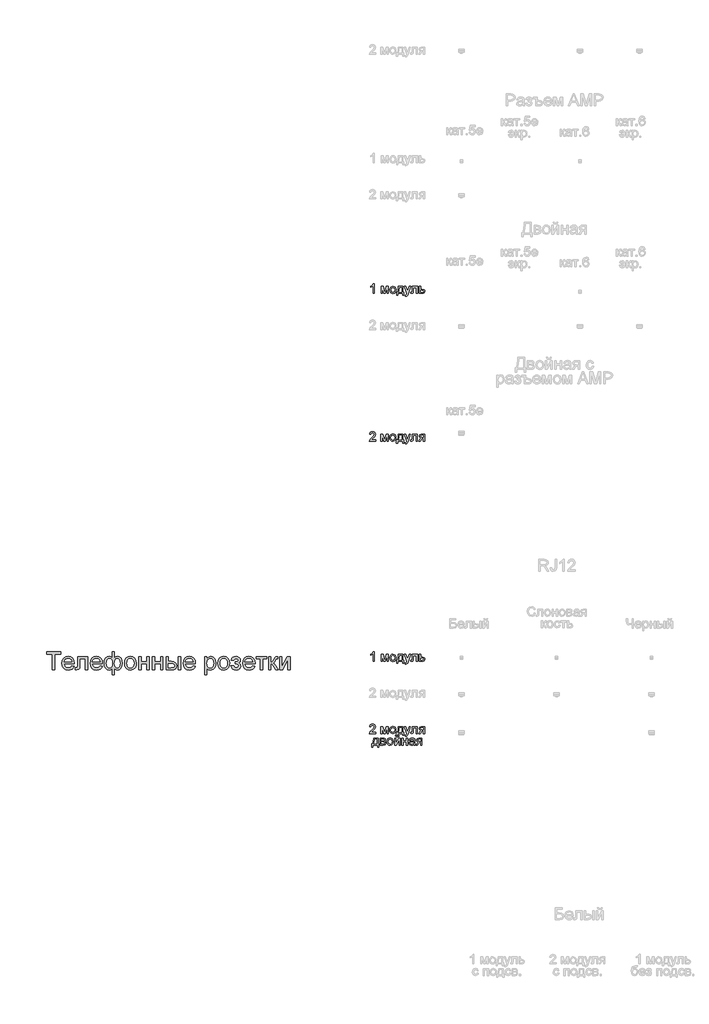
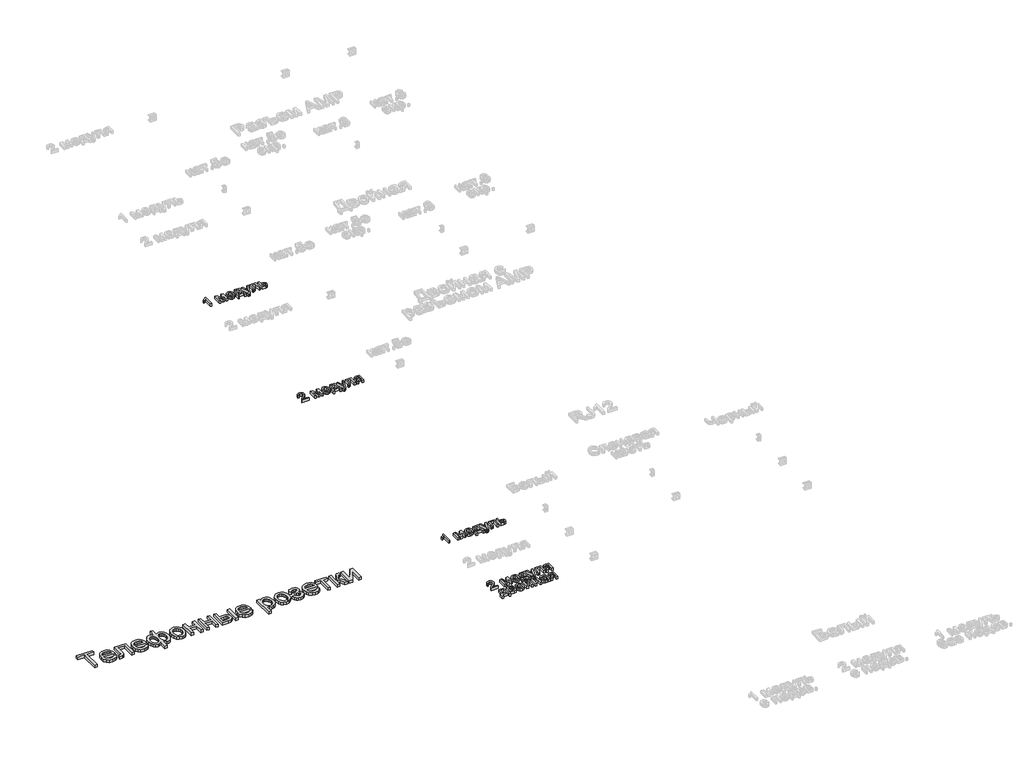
# One storey, part 6 of 47: 5 proxies.
"""IFC4 building model written with IfcOpenShell, lengths in millimetres."""

from ifc_helpers import new_model, si_unit, origin, origin_with_axes, place, context, project, spatial, polyline, outline, extrude, element, save

model = new_model("IFC4")

# Units and contexts
model_context = context("Model", 3, world=origin())
ifc_project = project(units=[si_unit("LENGTHUNIT", "METRE", prefix="MILLI")], contexts=[model_context])

# Site, building, storey
site = spatial("IfcSite", under=ifc_project)
building = spatial("IfcBuilding", under=site)
storey = spatial("IfcBuildingStorey", under=building, Name="Этаж 01", Elevation=0.0)

# Proxies
placement = place(None, origin())
element("IfcBuildingElementProxy", 1, Name="150 мм Arial", ObjectType="150 мм Arial", at=placement, inside=storey, context=model_context, shape_type="SweptSolid", body=[
    extrude(outline(polyline([(-3439.9925635, -25822.2592869), (-3439.9925635, -25690.4103799), (-3489.4359036, -25690.4103799), (-3489.4359036, -25671.5748217), (-3371.7136652, -25671.5748217), (-3371.7136652, -25690.4103799), (-3421.1570053, -25690.4103799), (-3421.1570053, -25822.2592869), (-3439.9925635, -25822.2592869)])), origin_with_axes(), (0.0, 0.0, 1.0), 20.0),
    extrude(outline(polyline([(-3275.4021588, -25789.2970602), (-3256.9344827, -25791.6515049), (-3263.5885483, -25805.5666414), (-3274.2065423, -25815.9685048), (-3288.5493416, -25822.452425), (-3306.3778228, -25824.6137317), (-3328.4783337, -25820.884328), (-3345.4836789, -25809.6961168), (-3356.3270007, -25791.7756651), (-3359.9414413, -25767.8495398), (-3356.2902125, -25743.1186727), (-3345.3365261, -25724.6234054), (-3328.5611071, -25713.0903049), (-3307.4446806, -25709.245938), (-3286.9858431, -25713.0811078), (-3270.638087, -25724.5866172), (-3259.9189253, -25743.0450963), (-3256.3458715, -25767.7391752), (-3256.4562361, -25772.8159468), (-3341.1058832, -25772.8159468), (-3337.845529, -25786.9150242), (-3330.2717584, -25797.2800994), (-3319.3410646, -25803.653655), (-3306.0099408, -25805.7781735), (-3287.5422647, -25801.8418362), (-3275.4021588, -25789.2970602)]), holes=[polyline([(-3341.1058832, -25753.9803886), (-3275.1814296, -25753.9803886), (-3277.7290124, -25744.0291806), (-3282.7230105, -25736.910664), (-3293.7042881, -25730.2887881), (-3307.518257, -25728.0814962), (-3320.2147844, -25729.8427312), (-3330.7132168, -25735.1264364), (-3338.0110759, -25743.3623945), (-3341.1058832, -25753.9803886)])]), origin_with_axes(), (0.0, 0.0, 1.0), 20.0),
    extrude(outline(polyline([(-3228.0925342, -25711.6003828), (-3143.3325226, -25711.6003828), (-3143.3325226, -25822.1489223), (-3162.1680807, -25822.1489223), (-3162.1680807, -25730.4359409), (-3209.2569761, -25730.4359409), (-3209.2569761, -25783.2270072), (-3210.526169, -25807.5807953), (-3217.4975328, -25817.8630971), (-3233.9786462, -25822.2592869), (-3249.2825372, -25821.3027937), (-3249.2825372, -25803.4237288), (-3240.8580395, -25803.4237288), (-3232.3415713, -25802.2649005), (-3228.9386628, -25798.5860805), (-3228.0925342, -25782.1601494), (-3228.0925342, -25711.6003828)])), origin_with_axes(), (0.0, 0.0, 1.0), 20.0),
    extrude(outline(polyline([(-3037.6032371, -25789.2970602), (-3019.135561, -25791.6515049), (-3025.7896266, -25805.5666414), (-3036.4076207, -25815.9685048), (-3050.7504199, -25822.452425), (-3068.5789011, -25824.6137317), (-3090.679412, -25820.884328), (-3107.6847572, -25809.6961168), (-3118.528079, -25791.7756651), (-3122.1425196, -25767.8495398), (-3118.4912908, -25743.1186727), (-3107.5376044, -25724.6234054), (-3090.7621854, -25713.0903049), (-3069.6457589, -25709.245938), (-3049.1869215, -25713.0811078), (-3032.8391653, -25724.5866172), (-3022.1200037, -25743.0450963), (-3018.5469498, -25767.7391752), (-3018.6573144, -25772.8159468), (-3103.3069615, -25772.8159468), (-3100.0466073, -25786.9150242), (-3092.4728367, -25797.2800994), (-3081.5421429, -25803.653655), (-3068.2110191, -25805.7781735), (-3049.743343, -25801.8418362), (-3037.6032371, -25789.2970602)]), holes=[polyline([(-3103.3069615, -25753.9803886), (-3037.3825079, -25753.9803886), (-3039.9300908, -25744.0291806), (-3044.9240888, -25736.910664), (-3055.9053664, -25730.2887881), (-3069.7193353, -25728.0814962), (-3082.4158627, -25729.8427312), (-3092.9142951, -25735.1264364), (-3100.2121542, -25743.3623945), (-3103.3069615, -25753.9803886)])]), origin_with_axes(), (0.0, 0.0, 1.0), 20.0),
    extrude(outline(polyline([(-2936.1413829, -25671.5748217), (-2917.3058247, -25671.5748217), (-2917.3058247, -25722.2321724), (-2905.3312658, -25712.4649055), (-2891.2965677, -25709.245938), (-2874.8108557, -25713.3386252), (-2862.1419195, -25725.6166868), (-2854.0715083, -25744.102757), (-2851.3813712, -25766.8194702), (-2854.2784419, -25790.2305607), (-2862.969654, -25808.6660472), (-2875.9650855, -25820.6268106), (-2891.7748143, -25824.6137317), (-2903.2895207, -25822.7743217), (-2917.3058247, -25812.7311432), (-2917.3058247, -25864.6392928), (-2936.1413829, -25864.6392928), (-2936.1413829, -25812.7311432), (-2948.1711241, -25821.6338875), (-2962.4081573, -25824.6137317), (-2978.1902949, -25820.806153), (-2991.8387169, -25809.3834171), (-3001.2748901, -25790.8697557), (-3004.4202812, -25765.7894007), (-3001.5737942, -25743.7072839), (-2993.0343334, -25725.5063222), (-2979.6848155, -25713.3110341), (-2962.4081573, -25709.245938), (-2947.8216362, -25712.4649055), (-2936.1413829, -25722.2321724), (-2936.1413829, -25671.5748217)]), holes=[polyline([(-2985.584723, -25765.3847305), (-2983.6993278, -25783.8616037), (-2978.0431421, -25796.3236063), (-2969.5910533, -25803.4145317), (-2959.3179486, -25805.7781735), (-2949.0954276, -25803.4283273), (-2941.8251597, -25796.3787886), (-2937.4795536, -25784.6295573), (-2936.0310183, -25768.1806336), (-2937.55313, -25750.637261), (-2942.1194653, -25738.1062805), (-2949.7576152, -25730.5876922), (-2960.4951709, -25728.0814962), (-2970.5751376, -25730.5279114), (-2978.5949651, -25737.8671572), (-2983.8372835, -25749.6393811), (-2985.584723, -25765.3847305)]), polyline([(-2917.4161893, -25767.2609286), (-2915.8480923, -25786.3310116), (-2911.1438013, -25797.9238929), (-2904.0758685, -25803.8146034), (-2895.416846, -25805.7781735), (-2885.736951, -25803.3639479), (-2877.5929633, -25796.1212712), (-2872.0609378, -25783.7926258), (-2870.2169293, -25766.1204945), (-2871.9183836, -25749.3634696), (-2877.0227462, -25737.4992752), (-2884.7942534, -25730.4359409), (-2894.497141, -25728.0814962), (-2904.4897357, -25730.5325099), (-2911.6588361, -25737.8855513), (-2915.976851, -25750.1314232), (-2917.4161893, -25767.2609286)])]), origin_with_axes(), (0.0, 0.0, 1.0), 20.0),
    extrude(outline(polyline([(-2832.545813, -25766.9298348), (-2828.4715199, -25740.2491931), (-2816.2486406, -25721.4964084), (-2801.1470847, -25712.3085556), (-2783.0656847, -25709.245938), (-2763.2782319, -25712.9753417), (-2747.4731016, -25724.1635529), (-2737.112625, -25741.9276548), (-2733.6591327, -25765.3847305), (-2735.185843, -25784.4134267), (-2739.7659738, -25798.8987802), (-2747.266168, -25809.7467006), (-2757.5530683, -25817.8630971), (-2769.7713491, -25822.926073), (-2783.0656847, -25824.6137317), (-2803.0922608, -25820.8981235), (-2818.8789969, -25809.7512991), (-2829.129109, -25791.6147167), (-2832.545813, -25766.9298348)]), holes=[polyline([(-2813.7102549, -25766.8930466), (-2811.5305541, -25783.9397786), (-2804.9914516, -25796.084483), (-2795.1506082, -25803.3547509), (-2783.0656847, -25805.7781735), (-2771.0359434, -25803.3409553), (-2761.2134942, -25796.0293007), (-2754.6743917, -25783.7236479), (-2752.4946909, -25766.3044355), (-2754.6881873, -25749.7543442), (-2761.2686765, -25737.7751867), (-2771.1049213, -25730.5049188), (-2783.0656847, -25728.0814962), (-2795.1506082, -25730.4957218), (-2804.9914516, -25737.7383985), (-2811.5305541, -25749.8555117), (-2813.7102549, -25766.8930466)])]), origin_with_axes(), (0.0, 0.0, 1.0), 20.0),
    extrude(outline(polyline([(-2712.4691298, -25711.6003828), (-2693.6335716, -25711.6003828), (-2693.6335716, -25753.9803886), (-2644.1902315, -25753.9803886), (-2644.1902315, -25711.6003828), (-2625.3546733, -25711.6003828), (-2625.3546733, -25822.2592869), (-2644.1902315, -25822.2592869), (-2644.1902315, -25772.8159468), (-2693.6335716, -25772.8159468), (-2693.6335716, -25822.2592869), (-2712.4691298, -25822.2592869), (-2712.4691298, -25711.6003828)])), origin_with_axes(), (0.0, 0.0, 1.0), 20.0),
    extrude(outline(polyline([(-2597.1013361, -25711.6003828), (-2578.265778, -25711.6003828), (-2578.265778, -25753.9803886), (-2528.8224378, -25753.9803886), (-2528.8224378, -25711.6003828), (-2509.9868797, -25711.6003828), (-2509.9868797, -25822.2592869), (-2528.8224378, -25822.2592869), (-2528.8224378, -25772.8159468), (-2578.265778, -25772.8159468), (-2578.265778, -25822.2592869), (-2597.1013361, -25822.2592869), (-2597.1013361, -25711.6003828)])), origin_with_axes(), (0.0, 0.0, 1.0), 20.0),
    extrude(outline(polyline([(-2378.1379726, -25711.6003828), (-2359.3024144, -25711.6003828), (-2359.3024144, -25822.2592869), (-2378.1379726, -25822.2592869), (-2378.1379726, -25711.6003828)])), origin_with_axes(), (0.0, 0.0, 1.0), 20.0),
    extrude(outline(polyline([(-2481.7335424, -25711.6003828), (-2462.8979843, -25711.6003828), (-2462.8979843, -25751.6259438), (-2439.611054, -25751.6259438), (-2419.4833103, -25753.9849871), (-2404.5702939, -25761.062117), (-2395.3410544, -25772.2871164), (-2392.2646412, -25787.0897682), (-2394.8444137, -25800.5680448), (-2402.5837312, -25811.940197), (-2415.9884314, -25819.6795144), (-2435.564352, -25822.2592869), (-2481.7335424, -25822.2592869), (-2481.7335424, -25711.6003828)]), holes=[polyline([(-2462.8979843, -25803.4237288), (-2443.5473913, -25803.4237288), (-2418.5682039, -25799.4689973), (-2412.9672005, -25794.4060214), (-2411.1001994, -25787.1265564), (-2416.6368234, -25775.5382735), (-2425.516575, -25771.7306949), (-2441.082582, -25770.461502), (-2462.8979843, -25770.461502), (-2462.8979843, -25803.4237288)])]), origin_with_axes(), (0.0, 0.0, 1.0), 20.0),
    extrude(outline(polyline([(-2253.573129, -25789.2970602), (-2235.1054529, -25791.6515049), (-2241.7595184, -25805.5666414), (-2252.3775125, -25815.9685048), (-2266.7203118, -25822.452425), (-2284.548793, -25824.6137317), (-2306.6493039, -25820.884328), (-2323.6546491, -25809.6961168), (-2334.4979709, -25791.7756651), (-2338.1124115, -25767.8495398), (-2334.4611827, -25743.1186727), (-2323.5074963, -25724.6234054), (-2306.7320773, -25713.0903049), (-2285.6156508, -25709.245938), (-2265.1568133, -25713.0811078), (-2248.8090572, -25724.5866172), (-2238.0898955, -25743.0450963), (-2234.5168417, -25767.7391752), (-2234.6272063, -25772.8159468), (-2319.2768534, -25772.8159468), (-2316.0164992, -25786.9150242), (-2308.4427286, -25797.2800994), (-2297.5120348, -25803.653655), (-2284.180911, -25805.7781735), (-2265.7132349, -25801.8418362), (-2253.573129, -25789.2970602)]), holes=[polyline([(-2319.2768534, -25753.9803886), (-2253.3523998, -25753.9803886), (-2255.8999826, -25744.0291806), (-2260.8939807, -25736.910664), (-2271.8752583, -25730.2887881), (-2285.6892272, -25728.0814962), (-2298.3857546, -25729.8427312), (-2308.884187, -25735.1264364), (-2316.1820461, -25743.3623945), (-2319.2768534, -25753.9803886)])]), origin_with_axes(), (0.0, 0.0, 1.0), 20.0),
    extrude(outline(polyline([(-2156.8201643, -25864.6392928), (-2156.8201643, -25711.6003828), (-2137.9846061, -25711.6003828), (-2137.9846061, -25730.0680589), (-2124.9615835, -25714.4514682), (-2107.3768241, -25709.245938), (-2094.6389101, -25711.0669539), (-2083.5012826, -25716.5300015), (-2074.4329915, -25725.3039871), (-2067.9030861, -25737.0578168), (-2062.6423735, -25766.0837063), (-2064.1276971, -25782.1923391), (-2068.5836677, -25796.5995178), (-2075.8677312, -25808.5740767), (-2085.8373333, -25817.3848505), (-2097.4486088, -25822.8065114), (-2109.6576925, -25824.6137317), (-2126.0468354, -25819.7760835), (-2137.9846061, -25807.5440071), (-2137.9846061, -25864.6392928), (-2156.8201643, -25864.6392928)]), holes=[polyline([(-2137.9846061, -25767.8127516), (-2135.9474596, -25784.6985352), (-2129.8360199, -25796.5075473), (-2120.8183125, -25803.460517), (-2110.0623627, -25805.7781735), (-2099.1316689, -25803.3777435), (-2089.8840353, -25796.1764535), (-2083.5794576, -25783.9351801), (-2081.4779317, -25766.4148001), (-2083.5288738, -25749.620987), (-2089.6817002, -25737.646428), (-2098.685612, -25730.4727291), (-2109.2898105, -25728.0814962), (-2119.9353957, -25730.6244804), (-2129.2841969, -25738.2534333), (-2135.8095038, -25750.7292315), (-2137.9846061, -25767.8127516)])]), origin_with_axes(), (0.0, 0.0, 1.0), 20.0),
    extrude(outline(polyline([(-2046.1612601, -25766.9298348), (-2042.086967, -25740.2491931), (-2029.8640878, -25721.4964084), (-2014.7625318, -25712.3085556), (-1996.6811318, -25709.245938), (-1976.893679, -25712.9753417), (-1961.0885488, -25724.1635529), (-1950.7280721, -25741.9276548), (-1947.2745798, -25765.3847305), (-1948.8012901, -25784.4134267), (-1953.381421, -25798.8987802), (-1960.8816151, -25809.7467006), (-1971.1685154, -25817.8630971), (-1983.3867962, -25822.926073), (-1996.6811318, -25824.6137317), (-2016.7077079, -25820.8981235), (-2032.494444, -25809.7512991), (-2042.7445561, -25791.6147167), (-2046.1612601, -25766.9298348)]), holes=[polyline([(-2027.325702, -25766.8930466), (-2025.1460012, -25783.9397786), (-2018.6068987, -25796.084483), (-2008.7660553, -25803.3547509), (-1996.6811318, -25805.7781735), (-1984.6513905, -25803.3409553), (-1974.8289413, -25796.0293007), (-1968.2898388, -25783.7236479), (-1966.110138, -25766.3044355), (-1968.3036344, -25749.7543442), (-1974.8841236, -25737.7751867), (-1984.7203684, -25730.5049188), (-1996.6811318, -25728.0814962), (-2008.7660553, -25730.4957218), (-2018.6068987, -25737.7383985), (-2025.1460012, -25749.8555117), (-2027.325702, -25766.8930466)])]), origin_with_axes(), (0.0, 0.0, 1.0), 20.0),
    extrude(outline(polyline([(-1900.1856845, -25772.8159468), (-1900.1856845, -25753.9803886), (-1885.3232518, -25753.2446246), (-1877.8184591, -25749.3266814), (-1874.286792, -25741.141307), (-1879.0140756, -25731.6315574), (-1891.2093638, -25728.0814962), (-1903.8093221, -25731.6131633), (-1911.9579083, -25742.2081648), (-1933.1479112, -25739.85372), (-1927.5285137, -25726.4628154), (-1918.9844544, -25716.8978835), (-1907.5157332, -25711.1589244), (-1893.1223501, -25709.245938), (-1877.3770008, -25711.5773901), (-1865.4576241, -25718.5717466), (-1857.9528314, -25728.8034646), (-1855.4512338, -25740.8470014), (-1859.0104921, -25752.5456488), (-1869.6882671, -25761.5955459), (-1857.2354615, -25773.3309816), (-1853.0967891, -25790.2167651), (-1855.7225468, -25804.0813178), (-1863.59982, -25815.0671939), (-1876.1951798, -25822.2270972), (-1892.9751973, -25824.6137317), (-1909.3873329, -25822.4064397), (-1921.9459045, -25815.7845638), (-1930.6509122, -25804.748104), (-1935.502356, -25789.2970602), (-1914.3123531, -25786.9426154), (-1905.814279, -25800.8485548), (-1891.1725756, -25805.7781735), (-1877.4137889, -25801.0508899), (-1871.9323472, -25788.9659664), (-1875.3352557, -25779.0699407), (-1882.582531, -25773.77244), (-1896.5068645, -25772.7055822), (-1900.1856845, -25772.8159468)])), origin_with_axes(), (0.0, 0.0, 1.0), 20.0),
    extrude(outline(polyline([(-1752.0763932, -25789.2970602), (-1733.608717, -25791.6515049), (-1740.2627826, -25805.5666414), (-1750.8807767, -25815.9685048), (-1765.223576, -25822.452425), (-1783.0520572, -25824.6137317), (-1805.152568, -25820.884328), (-1822.1579133, -25809.6961168), (-1833.0012351, -25791.7756651), (-1836.6156757, -25767.8495398), (-1832.9644469, -25743.1186727), (-1822.0107605, -25724.6234054), (-1805.2353415, -25713.0903049), (-1784.118915, -25709.245938), (-1763.6600775, -25713.0811078), (-1747.3123214, -25724.5866172), (-1736.5931597, -25743.0450963), (-1733.0201058, -25767.7391752), (-1733.1304704, -25772.8159468), (-1817.7801175, -25772.8159468), (-1814.5197633, -25786.9150242), (-1806.9459928, -25797.2800994), (-1796.015299, -25803.653655), (-1782.6841752, -25805.7781735), (-1764.216499, -25801.8418362), (-1752.0763932, -25789.2970602)]), holes=[polyline([(-1817.7801175, -25753.9803886), (-1751.855664, -25753.9803886), (-1754.4032468, -25744.0291806), (-1759.3972449, -25736.910664), (-1770.3785225, -25730.2887881), (-1784.1924914, -25728.0814962), (-1796.8890187, -25729.8427312), (-1807.3874512, -25735.1264364), (-1814.6853102, -25743.3623945), (-1817.7801175, -25753.9803886)])]), origin_with_axes(), (0.0, 0.0, 1.0), 20.0),
    extrude(outline(polyline([(-1723.6023268, -25711.6003828), (-1634.1334255, -25711.6003828), (-1634.1334255, -25730.4359409), (-1669.4500971, -25730.4359409), (-1669.4500971, -25822.2592869), (-1688.2856552, -25822.2592869), (-1688.2856552, -25730.4359409), (-1723.6023268, -25730.4359409), (-1723.6023268, -25711.6003828)])), origin_with_axes(), (0.0, 0.0, 1.0), 20.0),
    extrude(outline(polyline([(-1617.6523122, -25711.6003828), (-1598.816754, -25711.6003828), (-1598.816754, -25758.6892782), (-1586.1984016, -25755.3047638), (-1575.8609175, -25735.5862889), (-1567.2708729, -25718.5717466), (-1559.6925038, -25713.0351226), (-1545.9153231, -25711.6003828), (-1542.3100795, -25711.6003828), (-1542.3100795, -25730.5463055), (-1547.3868511, -25730.4359409), (-1556.583901, -25732.4225037), (-1563.0586241, -25744.8201269), (-1570.6553873, -25758.2294257), (-1581.305571, -25764.7961193), (-1569.4229826, -25772.126168), (-1557.7611233, -25787.5680148), (-1537.60119, -25822.2592869), (-1559.0119221, -25822.2592869), (-1578.7671853, -25788.3037788), (-1588.6999991, -25773.9379869), (-1598.816754, -25770.461502), (-1598.816754, -25822.2592869), (-1617.6523122, -25822.2592869), (-1617.6523122, -25711.6003828)])), origin_with_axes(), (0.0, 0.0, 1.0), 20.0),
    extrude(outline(polyline([(-1525.8289662, -25711.6003828), (-1506.993408, -25711.6003828), (-1506.993408, -25795.9925125), (-1460.713853, -25711.6003828), (-1436.3600649, -25711.6003828), (-1436.3600649, -25822.2592869), (-1455.1956231, -25822.2592869), (-1455.1956231, -25738.382192), (-1501.1808725, -25822.2592869), (-1525.8289662, -25822.2592869), (-1525.8289662, -25711.6003828)])), origin_with_axes(), (0.0, 0.0, 1.0), 20.0),
])
element("IfcBuildingElementProxy", 2, Name="80 мм Arial", ObjectType="80 мм Arial", at=placement, inside=storey, context=model_context, shape_type="SweptSolid", body=[
    extrude(outline(polyline([(-728.9436865, -22651.4329989), (-738.9893175, -22651.4329989), (-738.9893175, -22588.804768), (-748.5051984, -22595.5836069), (-759.0805795, -22600.6554733), (-759.0805795, -22591.1592128), (-744.3554895, -22581.7610541), (-735.4184096, -22571.0679507), (-728.9436865, -22571.0679507), (-728.9436865, -22651.4329989)])), origin_with_axes(), (0.0, 0.0, 1.0), 20.0),
    extrude(outline(polyline([(-671.1813081, -22592.4149166), (-653.8957594, -22592.4149166), (-640.5735261, -22639.660775), (-626.211413, -22592.4149166), (-609.6518182, -22592.4149166), (-609.6518182, -22651.4329989), (-619.6974492, -22651.4329989), (-619.6974492, -22603.9124553), (-634.1380438, -22651.4329989), (-647.3229345, -22651.4329989), (-661.1356771, -22601.636492), (-661.1356771, -22651.4329989), (-671.1813081, -22651.4329989), (-671.1813081, -22592.4149166)])), origin_with_axes(), (0.0, 0.0, 1.0), 20.0),
    extrude(outline(polyline([(-597.0947794, -22621.9239578), (-594.9218231, -22607.6942822), (-588.4029541, -22597.692797), (-580.348791, -22592.7926088), (-570.7053776, -22591.1592128), (-560.1520694, -22593.1482281), (-551.7226667, -22599.1152741), (-546.1970791, -22608.5894617), (-544.3552166, -22621.0999021), (-547.6121985, -22638.974062), (-557.0986489, -22649.0883643), (-570.7053776, -22652.6887027), (-581.3862182, -22650.7070451), (-589.8058108, -22644.762072), (-595.2725372, -22635.0892281), (-597.0947794, -22621.9239578)]), holes=[polyline([(-587.0491484, -22621.9043374), (-582.39912, -22637.4731034), (-570.7053776, -22642.6430717), (-559.050876, -22637.4436729), (-554.4008476, -22621.5904114), (-559.0803066, -22606.3748121), (-570.7053776, -22601.2048438), (-582.39912, -22606.3551917), (-587.0491484, -22621.9043374)])]), origin_with_axes(), (0.0, 0.0, 1.0), 20.0),
    extrude(outline(polyline([(-524.2639545, -22592.4149166), (-486.5928382, -22592.4149166), (-486.5928382, -22641.3873678), (-479.058615, -22641.3873678), (-479.058615, -22667.7571493), (-489.104246, -22667.7571493), (-489.104246, -22651.4329989), (-530.5424739, -22651.4329989), (-530.5424739, -22667.7571493), (-540.5881049, -22667.7571493), (-540.5881049, -22641.3873678), (-534.3095855, -22641.3873678), (-526.549728, -22622.2280735), (-524.2639545, -22592.4149166)]), holes=[polyline([(-515.4740274, -22602.4605477), (-517.8284722, -22625.3477129), (-523.0082507, -22641.3873678), (-496.6384692, -22641.3873678), (-496.6384692, -22602.4605477), (-515.4740274, -22602.4605477)])]), origin_with_axes(), (0.0, 0.0, 1.0), 20.0),
    extrude(outline(polyline([(-467.7572801, -22674.0356686), (-469.012984, -22664.3628247), (-463.911687, -22665.2457415), (-459.1439363, -22664.1371904), (-456.2205007, -22661.0469817), (-453.4736485, -22653.650101), (-452.6888336, -22651.2171748), (-474.0357995, -22592.4149166), (-463.440798, -22592.4149166), (-452.1198427, -22625.1809397), (-448.1761477, -22638.2873489), (-444.2324528, -22626.7113288), (-432.5975715, -22592.4149166), (-422.0810516, -22592.4149166), (-442.6235822, -22652.8456657), (-447.9603236, -22665.9520749), (-453.7875744, -22673.0350296), (-461.6161033, -22675.2913725), (-467.7572801, -22674.0356686)])), origin_with_axes(), (0.0, 0.0, 1.0), 20.0),
    extrude(outline(polyline([(-408.7391979, -22592.4149166), (-363.5338583, -22592.4149166), (-363.5338583, -22651.3741377), (-373.5794893, -22651.3741377), (-373.5794893, -22602.4605477), (-398.6935668, -22602.4605477), (-398.6935668, -22630.615783), (-399.3704697, -22643.60447), (-403.0885304, -22649.0883643), (-411.8784576, -22651.4329989), (-420.0405328, -22650.9228692), (-420.0405328, -22641.3873678), (-415.5474673, -22641.3873678), (-411.005351, -22640.7693261), (-409.1904664, -22638.8072888), (-408.7391979, -22630.0467922), (-408.7391979, -22592.4149166)])), origin_with_axes(), (0.0, 0.0, 1.0), 20.0),
    extrude(outline(polyline([(-348.4654118, -22592.4149166), (-338.4197808, -22592.4149166), (-338.4197808, -22613.7618826), (-326.8437606, -22613.7618826), (-309.3816286, -22618.7945083), (-304.7904613, -22624.7811746), (-303.2600722, -22632.6759222), (-308.4692813, -22645.9294842), (-315.2407625, -22650.0571202), (-325.1367882, -22651.4329989), (-348.4654118, -22651.4329989), (-348.4654118, -22592.4149166)]), holes=[polyline([(-338.4197808, -22641.3873678), (-329.0412424, -22641.3873678), (-316.9256621, -22639.2781777), (-313.3057032, -22632.6955426), (-315.9838841, -22626.5151251), (-327.8443997, -22623.8075136), (-338.4197808, -22623.8075136), (-338.4197808, -22641.3873678)])]), origin_with_axes(), (0.0, 0.0, 1.0), 20.0),
])
element("IfcBuildingElementProxy", 3, Name="80 мм Arial", ObjectType="80 мм Arial", at=placement, inside=storey, context=model_context, shape_type="SweptSolid", body=[
    extrude(outline(polyline([(-716.3866477, -23885.1206602), (-716.3866477, -23895.1662912), (-769.1262105, -23895.1662912), (-768.04709, -23888.2402995), (-761.945154, -23877.5766267), (-749.3684948, -23865.9319353), (-732.024085, -23849.1957571), (-727.6879826, -23837.8159407), (-731.7788304, -23828.6041755), (-742.4621235, -23824.8468741), (-753.5966852, -23828.5158838), (-757.8248756, -23838.6596167), (-767.8705066, -23837.4039128), (-765.4351278, -23827.6869231), (-760.1695102, -23820.5892531), (-752.348339, -23816.2482456), (-742.2462994, -23814.801243), (-732.0706834, -23816.4101136), (-724.2642275, -23821.2367254), (-719.2978206, -23828.4472125), (-717.6423516, -23837.2077091), (-719.4278055, -23846.7334002), (-725.3629684, -23856.5828275), (-739.754512, -23870.3465192), (-751.3109118, -23880.009553), (-755.843218, -23885.1206602), (-716.3866477, -23885.1206602)])), origin_with_axes(), (0.0, 0.0, 1.0), 20.0),
    extrude(outline(polyline([(-672.437012, -23836.148209), (-655.1514633, -23836.148209), (-641.82923, -23883.3940673), (-627.4671169, -23836.148209), (-610.907522, -23836.148209), (-610.907522, -23895.1662912), (-620.9531531, -23895.1662912), (-620.9531531, -23847.6457476), (-635.3937476, -23895.1662912), (-648.5786383, -23895.1662912), (-662.391381, -23845.3697843), (-662.391381, -23895.1662912), (-672.437012, -23895.1662912), (-672.437012, -23836.148209)])), origin_with_axes(), (0.0, 0.0, 1.0), 20.0),
    extrude(outline(polyline([(-598.3504833, -23865.6572501), (-596.177527, -23851.4275745), (-589.658658, -23841.4260893), (-581.6044948, -23836.5259011), (-571.9610815, -23834.8925051), (-561.4077733, -23836.8815204), (-552.9783705, -23842.8485664), (-547.452783, -23852.322754), (-545.6109204, -23864.8331944), (-548.8679024, -23882.7073543), (-558.3543528, -23892.8216566), (-571.9610815, -23896.421995), (-582.6419221, -23894.4403374), (-591.0615147, -23888.4953643), (-596.5282411, -23878.8225204), (-598.3504833, -23865.6572501)]), holes=[polyline([(-588.3048523, -23865.6376297), (-583.6548238, -23881.2063957), (-571.9610815, -23886.376364), (-560.3065799, -23881.1769652), (-555.6565515, -23865.3237037), (-560.3360104, -23850.1081044), (-571.9610815, -23844.9381361), (-583.6548238, -23850.088484), (-588.3048523, -23865.6376297)])]), origin_with_axes(), (0.0, 0.0, 1.0), 20.0),
    extrude(outline(polyline([(-525.5196584, -23836.148209), (-487.8485421, -23836.148209), (-487.8485421, -23885.1206602), (-480.3143188, -23885.1206602), (-480.3143188, -23911.4904416), (-490.3599499, -23911.4904416), (-490.3599499, -23895.1662912), (-531.7981778, -23895.1662912), (-531.7981778, -23911.4904416), (-541.8438088, -23911.4904416), (-541.8438088, -23885.1206602), (-535.5652894, -23885.1206602), (-527.8054319, -23865.9613658), (-525.5196584, -23836.148209)]), holes=[polyline([(-516.7297313, -23846.19384), (-519.084176, -23869.0810052), (-524.2639545, -23885.1206602), (-497.8941731, -23885.1206602), (-497.8941731, -23846.19384), (-516.7297313, -23846.19384)])]), origin_with_axes(), (0.0, 0.0, 1.0), 20.0),
    extrude(outline(polyline([(-469.012984, -23917.768961), (-470.2686878, -23908.096117), (-465.1673908, -23908.9790338), (-460.3996402, -23907.8704827), (-457.4762046, -23904.780274), (-454.7293524, -23897.3833933), (-453.9445374, -23894.9504671), (-475.2915033, -23836.148209), (-464.6965019, -23836.148209), (-453.3755466, -23868.914232), (-449.4318516, -23882.0206412), (-445.4881566, -23870.4446211), (-433.8532754, -23836.148209), (-423.3367554, -23836.148209), (-443.879286, -23896.578958), (-449.2160275, -23909.6853672), (-455.0432783, -23916.7683219), (-462.8718072, -23919.0246648), (-469.012984, -23917.768961)])), origin_with_axes(), (0.0, 0.0, 1.0), 20.0),
    extrude(outline(polyline([(-409.9949017, -23836.148209), (-364.7895622, -23836.148209), (-364.7895622, -23895.1074301), (-374.8351932, -23895.1074301), (-374.8351932, -23846.19384), (-399.9492707, -23846.19384), (-399.9492707, -23874.3490753), (-400.6261736, -23887.3377623), (-404.3442343, -23892.8216566), (-413.1341614, -23895.1662912), (-421.2962366, -23894.6561615), (-421.2962366, -23885.1206602), (-416.8031712, -23885.1206602), (-412.2610548, -23884.5026184), (-410.4461703, -23882.5405811), (-409.9949017, -23873.7800845), (-409.9949017, -23836.148209)])), origin_with_axes(), (0.0, 0.0, 1.0), 20.0),
    extrude(outline(polyline([(-304.5157761, -23836.148209), (-304.5157761, -23895.1662912), (-314.5614071, -23895.1662912), (-314.5614071, -23872.5636214), (-320.0354912, -23872.5636214), (-327.491233, -23873.8389456), (-334.4957061, -23882.4130487), (-342.5008184, -23895.1662912), (-354.1160792, -23895.1662912), (-344.0312075, -23879.0383445), (-335.4767248, -23870.6800656), (-347.1704671, -23864.5781295), (-350.9768195, -23853.1983132), (-345.7774207, -23840.8767189), (-330.7285945, -23836.148209), (-304.5157761, -23836.148209)]), holes=[polyline([(-314.5614071, -23846.19384), (-327.8051589, -23846.19384), (-338.5276928, -23848.5188542), (-340.9311885, -23853.9635077), (-337.3897112, -23860.448041), (-324.8424826, -23862.5179904), (-314.5614071, -23862.5179904), (-314.5614071, -23846.19384)])]), origin_with_axes(), (0.0, 0.0, 1.0), 20.0),
])
element("IfcBuildingElementProxy", 4, Name="80 мм Arial", ObjectType="80 мм Arial", at=placement, inside=storey, context=model_context, shape_type="SweptSolid", body=[
    extrude(outline(polyline([(-728.9436865, -25751.4329989), (-738.9893175, -25751.4329989), (-738.9893175, -25688.804768), (-748.5051984, -25695.5836069), (-759.0805795, -25700.6554733), (-759.0805795, -25691.1592128), (-744.3554895, -25681.7610541), (-735.4184096, -25671.0679507), (-728.9436865, -25671.0679507), (-728.9436865, -25751.4329989)])), origin_with_axes(), (0.0, 0.0, 1.0), 20.0),
    extrude(outline(polyline([(-671.1813081, -25692.4149166), (-653.8957594, -25692.4149166), (-640.5735261, -25739.660775), (-626.211413, -25692.4149166), (-609.6518182, -25692.4149166), (-609.6518182, -25751.4329989), (-619.6974492, -25751.4329989), (-619.6974492, -25703.9124553), (-634.1380438, -25751.4329989), (-647.3229345, -25751.4329989), (-661.1356771, -25701.636492), (-661.1356771, -25751.4329989), (-671.1813081, -25751.4329989), (-671.1813081, -25692.4149166)])), origin_with_axes(), (0.0, 0.0, 1.0), 20.0),
    extrude(outline(polyline([(-597.0947794, -25721.9239578), (-594.9218231, -25707.6942822), (-588.4029541, -25697.692797), (-580.348791, -25692.7926088), (-570.7053776, -25691.1592128), (-560.1520694, -25693.1482281), (-551.7226667, -25699.1152741), (-546.1970791, -25708.5894617), (-544.3552166, -25721.0999021), (-547.6121985, -25738.974062), (-557.0986489, -25749.0883643), (-570.7053776, -25752.6887027), (-581.3862182, -25750.7070451), (-589.8058108, -25744.762072), (-595.2725372, -25735.0892281), (-597.0947794, -25721.9239578)]), holes=[polyline([(-587.0491484, -25721.9043374), (-582.39912, -25737.4731034), (-570.7053776, -25742.6430717), (-559.050876, -25737.4436729), (-554.4008476, -25721.5904114), (-559.0803066, -25706.3748121), (-570.7053776, -25701.2048438), (-582.39912, -25706.3551917), (-587.0491484, -25721.9043374)])]), origin_with_axes(), (0.0, 0.0, 1.0), 20.0),
    extrude(outline(polyline([(-524.2639545, -25692.4149166), (-486.5928382, -25692.4149166), (-486.5928382, -25741.3873678), (-479.058615, -25741.3873678), (-479.058615, -25767.7571493), (-489.104246, -25767.7571493), (-489.104246, -25751.4329989), (-530.5424739, -25751.4329989), (-530.5424739, -25767.7571493), (-540.5881049, -25767.7571493), (-540.5881049, -25741.3873678), (-534.3095855, -25741.3873678), (-526.549728, -25722.2280735), (-524.2639545, -25692.4149166)]), holes=[polyline([(-515.4740274, -25702.4605477), (-517.8284722, -25725.3477129), (-523.0082507, -25741.3873678), (-496.6384692, -25741.3873678), (-496.6384692, -25702.4605477), (-515.4740274, -25702.4605477)])]), origin_with_axes(), (0.0, 0.0, 1.0), 20.0),
    extrude(outline(polyline([(-467.7572801, -25774.0356686), (-469.012984, -25764.3628247), (-463.911687, -25765.2457415), (-459.1439363, -25764.1371904), (-456.2205007, -25761.0469817), (-453.4736485, -25753.650101), (-452.6888336, -25751.2171748), (-474.0357995, -25692.4149166), (-463.440798, -25692.4149166), (-452.1198427, -25725.1809397), (-448.1761477, -25738.2873489), (-444.2324528, -25726.7113288), (-432.5975715, -25692.4149166), (-422.0810516, -25692.4149166), (-442.6235822, -25752.8456657), (-447.9603236, -25765.9520749), (-453.7875744, -25773.0350296), (-461.6161033, -25775.2913725), (-467.7572801, -25774.0356686)])), origin_with_axes(), (0.0, 0.0, 1.0), 20.0),
    extrude(outline(polyline([(-408.7391979, -25692.4149166), (-363.5338583, -25692.4149166), (-363.5338583, -25751.3741377), (-373.5794893, -25751.3741377), (-373.5794893, -25702.4605477), (-398.6935668, -25702.4605477), (-398.6935668, -25730.615783), (-399.3704697, -25743.60447), (-403.0885304, -25749.0883643), (-411.8784576, -25751.4329989), (-420.0405328, -25750.9228692), (-420.0405328, -25741.3873678), (-415.5474673, -25741.3873678), (-411.005351, -25740.7693261), (-409.1904664, -25738.8072888), (-408.7391979, -25730.0467922), (-408.7391979, -25692.4149166)])), origin_with_axes(), (0.0, 0.0, 1.0), 20.0),
    extrude(outline(polyline([(-348.4654118, -25692.4149166), (-338.4197808, -25692.4149166), (-338.4197808, -25713.7618826), (-326.8437606, -25713.7618826), (-309.3816286, -25718.7945083), (-304.7904613, -25724.7811746), (-303.2600722, -25732.6759222), (-308.4692813, -25745.9294842), (-315.2407625, -25750.0571202), (-325.1367882, -25751.4329989), (-348.4654118, -25751.4329989), (-348.4654118, -25692.4149166)]), holes=[polyline([(-338.4197808, -25741.3873678), (-329.0412424, -25741.3873678), (-316.9256621, -25739.2781777), (-313.3057032, -25732.6955426), (-315.9838841, -25726.5151251), (-327.8443997, -25723.8075136), (-338.4197808, -25723.8075136), (-338.4197808, -25741.3873678)])]), origin_with_axes(), (0.0, 0.0, 1.0), 20.0),
])
element("IfcBuildingElementProxy", 5, Name="80 мм Arial", ObjectType="80 мм Arial", at=placement, inside=storey, context=model_context, shape_type="SweptSolid", body=[
    extrude(outline(polyline([(-716.3866477, -26348.8539525), (-716.3866477, -26358.8995835), (-769.1262105, -26358.8995835), (-768.04709, -26351.9735918), (-761.945154, -26341.309919), (-749.3684948, -26329.6652276), (-732.024085, -26312.9290494), (-727.6879826, -26301.549233), (-731.7788304, -26292.3374678), (-742.4621235, -26288.5801664), (-753.5966852, -26292.2491761), (-757.8248756, -26302.392909), (-767.8705066, -26301.1372051), (-765.4351278, -26291.4202154), (-760.1695102, -26284.3225454), (-752.348339, -26279.9815379), (-742.2462994, -26278.5345354), (-732.0706834, -26280.1434059), (-724.2642275, -26284.9700177), (-719.2978206, -26292.1805048), (-717.6423516, -26300.9410014), (-719.4278055, -26310.4666925), (-725.3629684, -26320.3161198), (-739.754512, -26334.0798115), (-751.3109118, -26343.7428453), (-755.843218, -26348.8539525), (-716.3866477, -26348.8539525)])), origin_with_axes(), (0.0, 0.0, 1.0), 20.0),
    extrude(outline(polyline([(-672.437012, -26299.8815013), (-655.1514633, -26299.8815013), (-641.82923, -26347.1273596), (-627.4671169, -26299.8815013), (-610.907522, -26299.8815013), (-610.907522, -26358.8995835), (-620.9531531, -26358.8995835), (-620.9531531, -26311.3790399), (-635.3937476, -26358.8995835), (-648.5786383, -26358.8995835), (-662.391381, -26309.1030766), (-662.391381, -26358.8995835), (-672.437012, -26358.8995835), (-672.437012, -26299.8815013)])), origin_with_axes(), (0.0, 0.0, 1.0), 20.0),
    extrude(outline(polyline([(-598.3504833, -26329.3905424), (-596.177527, -26315.1608668), (-589.658658, -26305.1593816), (-581.6044948, -26300.2591934), (-571.9610815, -26298.6257974), (-561.4077733, -26300.6148127), (-552.9783705, -26306.5818587), (-547.452783, -26316.0560463), (-545.6109204, -26328.5664867), (-548.8679024, -26346.4406466), (-558.3543528, -26356.5549489), (-571.9610815, -26360.1552874), (-582.6419221, -26358.1736297), (-591.0615147, -26352.2286566), (-596.5282411, -26342.5558127), (-598.3504833, -26329.3905424)]), holes=[polyline([(-588.3048523, -26329.370922), (-583.6548238, -26344.939688), (-571.9610815, -26350.1096563), (-560.3065799, -26344.9102575), (-555.6565515, -26329.056996), (-560.3360104, -26313.8413967), (-571.9610815, -26308.6714284), (-583.6548238, -26313.8217763), (-588.3048523, -26329.370922)])]), origin_with_axes(), (0.0, 0.0, 1.0), 20.0),
    extrude(outline(polyline([(-525.5196584, -26299.8815013), (-487.8485421, -26299.8815013), (-487.8485421, -26348.8539525), (-480.3143188, -26348.8539525), (-480.3143188, -26375.2237339), (-490.3599499, -26375.2237339), (-490.3599499, -26358.8995835), (-531.7981778, -26358.8995835), (-531.7981778, -26375.2237339), (-541.8438088, -26375.2237339), (-541.8438088, -26348.8539525), (-535.5652894, -26348.8539525), (-527.8054319, -26329.6946582), (-525.5196584, -26299.8815013)]), holes=[polyline([(-516.7297313, -26309.9271323), (-519.084176, -26332.8142975), (-524.2639545, -26348.8539525), (-497.8941731, -26348.8539525), (-497.8941731, -26309.9271323), (-516.7297313, -26309.9271323)])]), origin_with_axes(), (0.0, 0.0, 1.0), 20.0),
    extrude(outline(polyline([(-469.012984, -26381.5022533), (-470.2686878, -26371.8294093), (-465.1673908, -26372.7123261), (-460.3996402, -26371.603775), (-457.4762046, -26368.5135663), (-454.7293524, -26361.1166856), (-453.9445374, -26358.6837594), (-475.2915033, -26299.8815013), (-464.6965019, -26299.8815013), (-453.3755466, -26332.6475243), (-449.4318516, -26345.7539335), (-445.4881566, -26334.1779134), (-433.8532754, -26299.8815013), (-423.3367554, -26299.8815013), (-443.879286, -26360.3122503), (-449.2160275, -26373.4186596), (-455.0432783, -26380.5016142), (-462.8718072, -26382.7579571), (-469.012984, -26381.5022533)])), origin_with_axes(), (0.0, 0.0, 1.0), 20.0),
    extrude(outline(polyline([(-409.9949017, -26299.8815013), (-364.7895622, -26299.8815013), (-364.7895622, -26358.8407224), (-374.8351932, -26358.8407224), (-374.8351932, -26309.9271323), (-399.9492707, -26309.9271323), (-399.9492707, -26338.0823676), (-400.6261736, -26351.0710546), (-404.3442343, -26356.5549489), (-413.1341614, -26358.8995835), (-421.2962366, -26358.3894538), (-421.2962366, -26348.8539525), (-416.8031712, -26348.8539525), (-412.2610548, -26348.2359107), (-410.4461703, -26346.2738734), (-409.9949017, -26337.5133768), (-409.9949017, -26299.8815013)])), origin_with_axes(), (0.0, 0.0, 1.0), 20.0),
    extrude(outline(polyline([(-304.5157761, -26299.8815013), (-304.5157761, -26358.8995835), (-314.5614071, -26358.8995835), (-314.5614071, -26336.2969137), (-320.0354912, -26336.2969137), (-327.491233, -26337.5722379), (-334.4957061, -26346.146341), (-342.5008184, -26358.8995835), (-354.1160792, -26358.8995835), (-344.0312075, -26342.7716368), (-335.4767248, -26334.4133579), (-347.1704671, -26328.3114219), (-350.9768195, -26316.9316055), (-345.7774207, -26304.6100112), (-330.7285945, -26299.8815013), (-304.5157761, -26299.8815013)]), holes=[polyline([(-314.5614071, -26309.9271323), (-327.8051589, -26309.9271323), (-338.5276928, -26312.2521465), (-340.9311885, -26317.6968), (-337.3897112, -26324.1813333), (-324.8424826, -26326.2512827), (-314.5614071, -26326.2512827), (-314.5614071, -26309.9271323)])]), origin_with_axes(), (0.0, 0.0, 1.0), 20.0),
    extrude(outline(polyline([(-734.5943539, -26397.4613555), (-696.9232376, -26397.4613555), (-696.9232376, -26446.4338067), (-689.3890143, -26446.4338067), (-689.3890143, -26472.8035882), (-699.4346454, -26472.8035882), (-699.4346454, -26456.4794378), (-740.8728733, -26456.4794378), (-740.8728733, -26472.8035882), (-750.9185043, -26472.8035882), (-750.9185043, -26446.4338067), (-744.6399849, -26446.4338067), (-736.8801274, -26427.2745124), (-734.5943539, -26397.4613555)]), holes=[polyline([(-725.8044268, -26407.5069866), (-728.1588715, -26430.3941517), (-733.33865, -26446.4338067), (-706.9688686, -26446.4338067), (-706.9688686, -26407.5069866), (-725.8044268, -26407.5069866)])]), origin_with_axes(), (0.0, 0.0, 1.0), 20.0),
    extrude(outline(polyline([(-678.0876795, -26397.4613555), (-655.9558986, -26397.4613555), (-643.8206979, -26398.8053511), (-636.992808, -26403.7300647), (-634.1380438, -26412.313978), (-635.8646366, -26419.2890206), (-641.0640355, -26424.2627852), (-634.3146271, -26429.7074387), (-631.626636, -26439.1742687), (-637.3754053, -26452.2218168), (-652.5615741, -26456.4794378), (-678.0876795, -26456.4794378), (-678.0876795, -26397.4613555)]), holes=[polyline([(-668.0420484, -26420.0640253), (-658.1141397, -26420.0640253), (-649.9226339, -26419.5538956), (-645.9396982, -26417.5133768), (-644.1836748, -26413.8247467), (-647.2640733, -26408.900033), (-657.8002137, -26407.5069866), (-668.0420484, -26407.5069866), (-668.0420484, -26420.0640253)]), polyline([(-668.0420484, -26446.4338067), (-655.7204541, -26446.4338067), (-644.7919063, -26444.6189222), (-641.672267, -26438.350213), (-643.3890497, -26433.5137911), (-647.8624947, -26430.6982675), (-656.7014728, -26430.1096563), (-668.0420484, -26430.1096563), (-668.0420484, -26446.4338067)])]), origin_with_axes(), (0.0, 0.0, 1.0), 20.0),
    extrude(outline(polyline([(-621.581005, -26426.9703966), (-619.4080487, -26412.7407211), (-612.8891797, -26402.7392359), (-604.8350166, -26397.8390477), (-595.1916032, -26396.2056517), (-584.638295, -26398.194667), (-576.2088923, -26404.1617129), (-570.6833047, -26413.6359006), (-568.8414422, -26426.146341), (-572.0984241, -26444.0205008), (-581.5848745, -26454.1348032), (-595.1916032, -26457.7351416), (-605.8724438, -26455.7534839), (-614.2920364, -26449.8085109), (-619.7587628, -26440.135667), (-621.581005, -26426.9703966)]), holes=[polyline([(-611.535374, -26426.9507763), (-606.8853456, -26442.5195423), (-595.1916032, -26447.6895106), (-583.5371016, -26442.4901117), (-578.8870732, -26426.6368503), (-583.5665322, -26411.421251), (-595.1916032, -26406.2512827), (-606.8853456, -26411.4016306), (-611.535374, -26426.9507763)])]), origin_with_axes(), (0.0, 0.0, 1.0), 20.0),
    extrude(outline(polyline([(-557.5401073, -26397.4613555), (-547.4944763, -26397.4613555), (-547.4944763, -26442.4704914), (-522.8120469, -26397.4613555), (-509.82336, -26397.4613555), (-509.82336, -26456.4794378), (-519.868991, -26456.4794378), (-519.868991, -26411.7449871), (-544.3944573, -26456.4794378), (-557.5401073, -26456.4794378), (-557.5401073, -26397.4613555)])), origin_with_axes(), (0.0, 0.0, 1.0), 20.0),
    extrude(outline(polyline([(-524.8918065, -26376.1143896), (-517.3575832, -26376.1143896), (-522.2332459, -26387.2881921), (-533.0538817, -26391.1828362), (-544.7672444, -26387.3176227), (-550.005884, -26376.1143896), (-542.4716607, -26376.1143896), (-539.646327, -26381.7748673), (-533.9564188, -26383.6486129), (-527.7171402, -26381.8337284), (-524.8918065, -26376.1143896)])), origin_with_axes(), (0.0, 0.0, 1.0), 20.0),
    extrude(outline(polyline([(-494.7549134, -26397.4613555), (-484.7092824, -26397.4613555), (-484.7092824, -26420.0640253), (-458.339501, -26420.0640253), (-458.339501, -26397.4613555), (-448.29387, -26397.4613555), (-448.29387, -26456.4794378), (-458.339501, -26456.4794378), (-458.339501, -26430.1096563), (-484.7092824, -26430.1096563), (-484.7092824, -26456.4794378), (-494.7549134, -26456.4794378), (-494.7549134, -26397.4613555)])), origin_with_axes(), (0.0, 0.0, 1.0), 20.0),
    extrude(outline(polyline([(-395.5543072, -26448.9452145), (-405.2958224, -26455.7534839), (-416.057597, -26457.7351416), (-430.6453444, -26452.967391), (-435.7368312, -26440.7831393), (-433.8140347, -26432.8368882), (-428.7617886, -26427.0684985), (-421.7278848, -26423.7722758), (-413.0360596, -26422.2615071), (-395.6131683, -26418.8083214), (-395.5543072, -26416.5715989), (-398.3207798, -26409.1550979), (-409.4259109, -26406.2512827), (-419.5892642, -26408.1838894), (-424.4354963, -26415.0412098), (-434.4811273, -26413.7855059), (-430.1352147, -26403.9753194), (-421.3845283, -26398.2265501), (-408.1309663, -26396.2056517), (-395.9565248, -26397.9911056), (-389.079584, -26402.4743609), (-385.9991855, -26409.2924405), (-385.5086761, -26418.0823676), (-385.5086761, -26430.5805453), (-384.9985464, -26448.0328671), (-382.9972684, -26456.4794378), (-393.0428994, -26456.4794378), (-395.5543072, -26448.9452145)]), holes=[polyline([(-395.5543072, -26428.8539525), (-411.7607353, -26431.934351), (-420.4035097, -26433.562842), (-424.3177741, -26436.2115924), (-425.6912002, -26440.0768059), (-422.6990933, -26445.5116492), (-413.9189764, -26447.6895106), (-403.7556231, -26445.2860149), (-397.2024185, -26439.4685743), (-395.6131683, -26431.6989066), (-395.5543072, -26428.8539525)])]), origin_with_axes(), (0.0, 0.0, 1.0), 20.0),
    extrude(outline(polyline([(-326.4905939, -26397.4613555), (-326.4905939, -26456.4794378), (-336.5362249, -26456.4794378), (-336.5362249, -26433.876768), (-342.010309, -26433.876768), (-349.4660508, -26435.1520922), (-356.470524, -26443.7261953), (-364.4756362, -26456.4794378), (-376.0908971, -26456.4794378), (-366.0060253, -26440.3514911), (-357.4515426, -26431.9932122), (-369.145285, -26425.8912761), (-372.9516374, -26414.5114597), (-367.7522385, -26402.1898655), (-352.7034124, -26397.4613555), (-326.4905939, -26397.4613555)]), holes=[polyline([(-336.5362249, -26407.5069866), (-349.7799768, -26407.5069866), (-360.5025107, -26409.8320008), (-362.9060064, -26415.2766543), (-359.364529, -26421.7611876), (-346.8173004, -26423.831137), (-336.5362249, -26423.831137), (-336.5362249, -26407.5069866)])]), origin_with_axes(), (0.0, 0.0, 1.0), 20.0),
])

save(model, "model.ifc")
